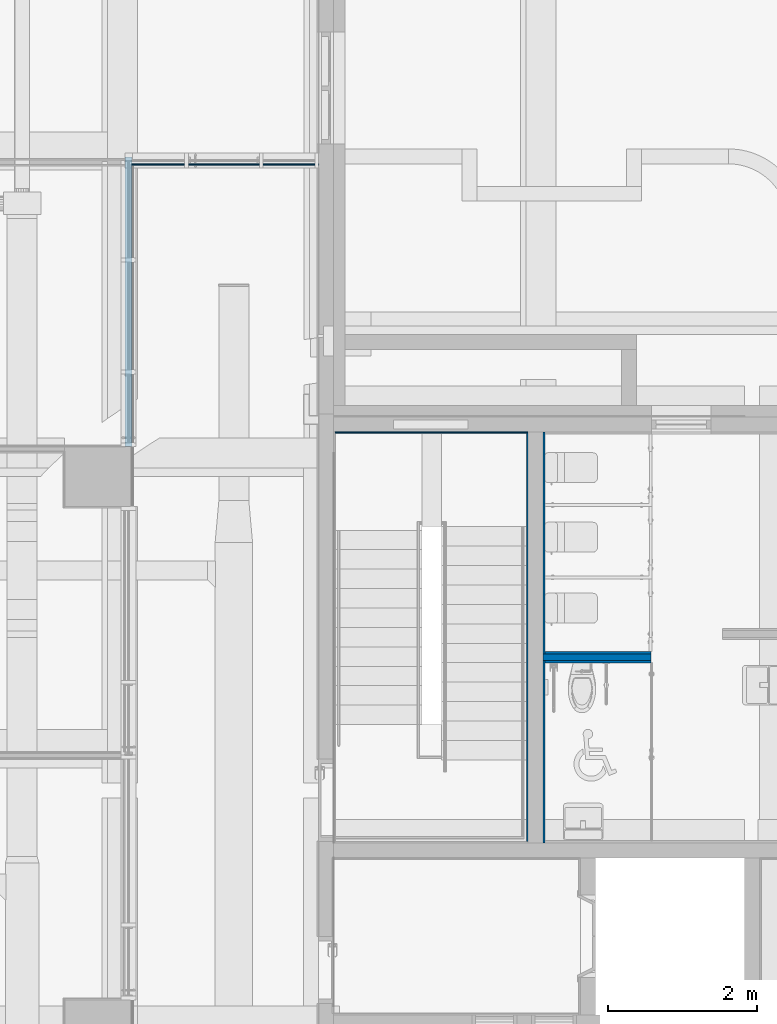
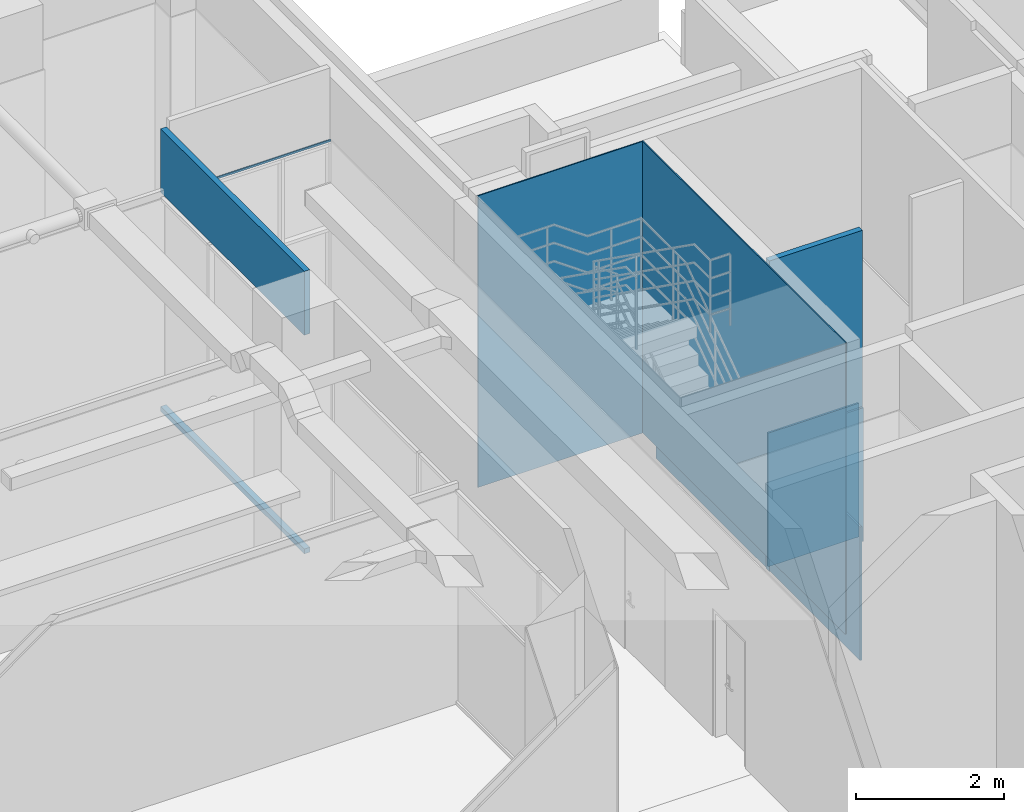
# One storey, part 47 of 100: 8 walls, 2 openings.
"""IFC2X3 building model written with IfcOpenShell, lengths in millimetres."""

from ifc_helpers import new_model, entity, si_unit, converted_unit, derived_unit, direction, frame, frame_2d, origin, place, context, subcontext, project, spatial, polyline, rectangle, extrude, clip, bounded_halfspace, material, layer, layer_set, layer_usage, type_object, element, save


model = new_model("IFC2X3")

# Units and contexts
model_context = context("Model", 3, precision=0.01, world=origin(), true_north=direction((6.123031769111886e-17, 1.0)))
body_context = subcontext(model_context, "Body", "Model", "MODEL_VIEW")
ifc_project = project(units=[si_unit("LENGTHUNIT", "METRE", prefix="MILLI"), si_unit("AREAUNIT", "SQUARE_METRE"), si_unit("VOLUMEUNIT", "CUBIC_METRE"), converted_unit("PLANEANGLEUNIT", "DEGREE", entity("IfcRatioMeasure", 0.017453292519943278), si_unit("PLANEANGLEUNIT", "RADIAN"), dimensions=[0, 0, 0, 0, 0, 0, 0]), si_unit("MASSUNIT", "GRAM", prefix="KILO"), derived_unit("MASSDENSITYUNIT", [(si_unit("MASSUNIT", "GRAM", prefix="KILO"), 1), (si_unit("LENGTHUNIT", "METRE"), -3)]), derived_unit("MOMENTOFINERTIAUNIT", [(si_unit("LENGTHUNIT", "METRE"), 4)]), si_unit("TIMEUNIT", "SECOND"), si_unit("FREQUENCYUNIT", "HERTZ"), si_unit("THERMODYNAMICTEMPERATUREUNIT", "DEGREE_CELSIUS"), derived_unit("THERMALTRANSMITTANCEUNIT", [(si_unit("MASSUNIT", "GRAM", prefix="KILO"), 1), (si_unit("THERMODYNAMICTEMPERATUREUNIT", "KELVIN"), -1), (si_unit("TIMEUNIT", "SECOND"), -3)]), derived_unit("VOLUMETRICFLOWRATEUNIT", [(si_unit("LENGTHUNIT", "METRE"), 3), (si_unit("TIMEUNIT", "SECOND"), -1)]), derived_unit("MASSFLOWRATEUNIT", [(si_unit("MASSUNIT", "GRAM", prefix="KILO"), 1), (si_unit("TIMEUNIT", "SECOND"), -1)]), derived_unit("ROTATIONALFREQUENCYUNIT", [(si_unit("TIMEUNIT", "SECOND"), -1)]), si_unit("ELECTRICCURRENTUNIT", "AMPERE"), si_unit("ELECTRICVOLTAGEUNIT", "VOLT"), si_unit("POWERUNIT", "WATT"), si_unit("FORCEUNIT", "NEWTON", prefix="KILO"), si_unit("ILLUMINANCEUNIT", "LUX"), si_unit("LUMINOUSFLUXUNIT", "LUMEN"), si_unit("LUMINOUSINTENSITYUNIT", "CANDELA"), derived_unit("USERDEFINED", [(si_unit("MASSUNIT", "GRAM", prefix="KILO"), -1), (si_unit("LENGTHUNIT", "METRE"), -2), (si_unit("TIMEUNIT", "SECOND"), 3), (si_unit("LUMINOUSFLUXUNIT", "LUMEN"), 1)]), derived_unit("SOUNDPOWERUNIT", [(si_unit("MASSUNIT", "GRAM", prefix="KILO"), 1), (si_unit("LENGTHUNIT", "METRE"), 2), (si_unit("TIMEUNIT", "SECOND"), -3)]), derived_unit("SOUNDPRESSUREUNIT", [(si_unit("MASSUNIT", "GRAM", prefix="KILO"), 1), (si_unit("LENGTHUNIT", "METRE"), -1), (si_unit("TIMEUNIT", "SECOND"), -2)]), derived_unit("LINEARVELOCITYUNIT", [(si_unit("LENGTHUNIT", "METRE"), 1), (si_unit("TIMEUNIT", "SECOND"), -1)]), si_unit("PRESSUREUNIT", "PASCAL"), derived_unit("USERDEFINED", [(si_unit("LENGTHUNIT", "METRE"), -2), (si_unit("MASSUNIT", "GRAM", prefix="KILO"), 1), (si_unit("TIMEUNIT", "SECOND"), -2)]), derived_unit("LINEARFORCEUNIT", [(si_unit("MASSUNIT", "GRAM", prefix="KILO"), 1), (si_unit("LENGTHUNIT", "METRE"), 1), (si_unit("TIMEUNIT", "SECOND"), -2), (si_unit("LENGTHUNIT", "METRE"), -1)]), derived_unit("PLANARFORCEUNIT", [(si_unit("MASSUNIT", "GRAM", prefix="KILO"), 1), (si_unit("LENGTHUNIT", "METRE"), 1), (si_unit("TIMEUNIT", "SECOND"), -2), (si_unit("LENGTHUNIT", "METRE"), -2)])], contexts=[model_context])

# Site, building, storey
site_placement = place(None, frame((-14167.972527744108, -657.2125860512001, 0.0)))
site = spatial("IfcSite", under=ifc_project, at=site_placement, Name="Default", CompositionType="ELEMENT")
building_placement = place(site_placement, origin())
building = spatial("IfcBuilding", under=site, at=building_placement, Name="Sample Building", CompositionType="ELEMENT")
storey_placement = place(building_placement, origin())
storey = spatial("IfcBuildingStorey", under=building, at=storey_placement, Name="지상 1층", CompositionType="ELEMENT", Elevation=0.0)

# Wall
ifc_material_1 = material(Name="KBIMS-시멘트 벽돌")
ifc_layer_1 = layer(ifc_material_1, 90.0)
ifc_layer_set_1 = layer_set([ifc_layer_1], Name="기본 벽:WA211-시멘트벽돌(일반) 벽 (0.5B) 90mm")
ifc_layer_usage_1 = layer_usage(ifc_layer_set_1, "AXIS2", "NEGATIVE", 45.0)
wall_type_1 = type_object("IfcWallType", Name="기본 벽:WA211-시멘트벽돌(일반) 벽 (0.5B) 90mm", PredefinedType="STANDARD", material=ifc_layer_set_1)
wall_1_placement = place(storey_placement, frame((33067.972491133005, 24941.74389776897, -510.0)))
element("IfcWallStandardCase", 1, at=wall_1_placement, inside=storey, type_object=wall_type_1, material=ifc_layer_usage_1, Name="기본 벽:WA211-시멘트벽돌(일반) 벽 (0.5B) 90mm", ObjectType="기본 벽:WA211-시멘트벽돌(일반) 벽 (0.5B) 90mm", context=body_context, shape_type="Clipping", body=[
    clip(extrude(rectangle(XDim=1444.991263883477, YDim=90.0000000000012, at=frame_2d((722.4956319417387, -2.3234747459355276e-12), x_axis=(1.0, 0.0))), origin(), (0.0, 0.0, 1.0), 5110.000000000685), bounded_halfspace(frame((1444.9912638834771, -45.0, 0.0), z_axis=(0.0, 0.0, 1.0), x_axis=(0.0, 1.0, 0.0)), True, frame((1444.9912638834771, -45.0, 0.0), z_axis=(0.0, 0.0, 1.0), x_axis=(0.0, 1.0, 0.0)), polyline([(0.0, 0.0), (27432.0, 1.6542459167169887e-08), (27432.0, 440433.3372317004), (-2.6414594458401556e-07, 440433.33723168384), (0.0, 0.0)]))),
])

# Wall, opening
ifc_layer_usage_2 = layer_usage(ifc_layer_set_1, "AXIS2", "NEGATIVE", 45.0)
wall_2_placement = place(storey_placement, frame((27522.955141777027, 27757.195169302, 0.0), z_axis=(0.0, 0.0, 1.0), x_axis=(0.0, 1.0, 0.0)))
wall_2 = element("IfcWallStandardCase", 2, at=wall_2_placement, inside=storey, type_object=wall_type_1, material=ifc_layer_usage_2, Name="기본 벽:WA211-시멘트벽돌(일반) 벽 (0.5B) 90mm", ObjectType="기본 벽:WA211-시멘트벽돌(일반) 벽 (0.5B) 90mm", context=body_context, shape_type="SweptSolid", body=[
    extrude(rectangle(XDim=3874.982578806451, YDim=90.0000000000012, at=frame_2d((1937.4912894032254, -9.308109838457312e-13), x_axis=(-1.0, 0.0))), origin(), (0.0, 0.0, 1.0), 4650.000000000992),
])
opening_1_placement = place(wall_2_placement, origin())
element("IfcOpeningElement", 3, at=opening_1_placement, cuts=wall_2, Name="기본 벽:WA211-시멘트벽돌(일반) 벽 (0.5B) 90mm", ObjectType="Opening", context=body_context, shape_type="SweptSolid", body=[
    extrude(rectangle(XDim=3520.000000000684, YDim=3929.982578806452, at=frame_2d((-1.1368683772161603e-13, -2.1600499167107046e-12), x_axis=(1.0, 0.0))), frame((1964.991289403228, -197.40000000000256, 1840.0), z_axis=(0.0, 1.0, 0.0), x_axis=(0.0, 0.0, 1.0)), (0.0, 0.0, 1.0), 394.8000000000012),
])

ifc_material_2 = material(Name="WA611-수성페인트 (내부) 벽 (3회)")
ifc_layer_2 = layer(ifc_material_2, 1.0)
ifc_material_3 = material(Name="WA551-시멘트모르타르 (내부) 벽 18mm")
ifc_layer_3 = layer(ifc_material_3, 16.0)
ifc_material_4 = material(Name="WA555-콘크리트면정리 벽 (내부)")
ifc_layer_4 = layer(ifc_material_4, 1.0)
ifc_layer_set_2 = layer_set([ifc_layer_2, ifc_layer_3, ifc_layer_4], Name="기본 벽:A1-32-06A-콘크리트면정리, 시멘트모르타르(미장용), 수성페인트(내부) (18mm)")
ifc_layer_usage_3 = layer_usage(ifc_layer_set_2, "AXIS2", "NEGATIVE", 9.000000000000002)
wall_type_2 = type_object("IfcWallType", Name="기본 벽:A1-32-06A-콘크리트면정리, 시멘트모르타르(미장용), 수성페인트(내부) (18mm)", PredefinedType="STANDARD", material=ifc_layer_set_2)
wall_3_placement = place(storey_placement, frame((30066.125814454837, 31533.160331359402, 3600.0), z_axis=(0.0, 0.0, 1.0), x_axis=(-1.0, 0.0, 0.0)))
wall_3 = element("IfcWallStandardCase", 4, at=wall_3_placement, inside=storey, type_object=wall_type_2, material=ifc_layer_usage_3, Name="기본 벽:A1-32-06A-콘크리트면정리, 시멘트모르타르(미장용), 수성페인트(내부) (18mm)", ObjectType="기본 벽:A1-32-06A-콘크리트면정리, 시멘트모르타르(미장용), 수성페인트(내부) (18mm)", context=body_context, shape_type="SweptSolid", body=[
    extrude(rectangle(XDim=2498.1706726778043, YDim=18.00000000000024, at=frame_2d((1249.0853363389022, -2.1742607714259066e-12), x_axis=(1.0, 0.0))), origin(), (0.0, 0.0, 1.0), 30.000000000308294),
])
opening_2_placement = place(wall_3_placement, origin())
element("IfcOpeningElement", 5, at=opening_2_placement, cuts=wall_3, Name="기본 벽:A1-32-06A-콘크리트면정리, 시멘트모르타르(미장용), 수성페인트(내부) (18mm)", ObjectType="Opening", context=body_context, shape_type="SweptSolid", body=[
    extrude(rectangle(XDim=3520.000000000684, YDim=2593.153323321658, at=frame_2d((0.0, 0.0), x_axis=(0.0, 1.0))), frame((1296.5766616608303, -161.40000000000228, -1760.0), z_axis=(0.0, 1.0, 0.0), x_axis=(-1.0, 0.0, 0.0)), (0.0, 0.0, 1.0), 322.80000000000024),
])

# Walls
ifc_layer_usage_4 = layer_usage(ifc_layer_set_2, "AXIS2", "POSITIVE", -9.000000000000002)
wall_4_placement = place(storey_placement, frame((32858.97249113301, 27957.194891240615, 0.0), z_axis=(0.0, 0.0, 1.0), x_axis=(0.0, -1.0, 0.0)))
element("IfcWallStandardCase", 6, at=wall_4_placement, inside=storey, type_object=wall_type_2, material=ifc_layer_usage_4, Name="기본 벽:A1-32-06A-콘크리트면정리, 시멘트모르타르(미장용), 수성페인트(내부) (18mm)", ObjectType="기본 벽:A1-32-06A-콘크리트면정리, 시멘트모르타르(미장용), 수성페인트(내부) (18mm)", context=body_context, shape_type="SweptSolid", body=[
    extrude(rectangle(XDim=5481.999996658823, YDim=18.00000000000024, at=frame_2d((2740.9999983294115, -2.1662671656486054e-12), x_axis=(-1.0, 0.0))), origin(), (0.0, 0.0, 1.0), 4800.000000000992),
])
ifc_layer_usage_5 = layer_usage(ifc_layer_set_2, "AXIS2", "POSITIVE", -9.000000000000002)
wall_5_placement = place(storey_placement, frame((30285.963761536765, 27948.19489124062, 0.0)))
element("IfcWallStandardCase", 7, at=wall_5_placement, inside=storey, type_object=wall_type_2, material=ifc_layer_usage_5, Name="기본 벽:A1-32-06A-콘크리트면정리, 시멘트모르타르(미장용), 수성페인트(내부) (18mm)", ObjectType="기본 벽:A1-32-06A-콘크리트면정리, 시멘트모르타르(미장용), 수성페인트(내부) (18mm)", context=body_context, shape_type="SweptSolid", body=[
    extrude(rectangle(XDim=2564.008729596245, YDim=18.00000000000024, at=frame_2d((1282.0043647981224, -2.1662671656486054e-12), x_axis=(-1.0, 0.0))), origin(), (0.0, 0.0, 1.0), 4800.000000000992),
])
ifc_material_5 = material(Name="WA352-도기질타일 벽 200x200")
ifc_layer_5 = layer(ifc_material_5, 8.0)
ifc_material_6 = material(Name="WA551-시멘트모르타르 (내부) 벽 22mm")
ifc_layer_6 = layer(ifc_material_6, 22.0)
ifc_layer_set_3 = layer_set([ifc_layer_5, ifc_layer_6], Name="기본 벽:A1-33-01B-시멘트 모르타르, 도기질타일 (30mm)")
ifc_layer_usage_6 = layer_usage(ifc_layer_set_3, "AXIS2", "NEGATIVE", 15.0)
wall_type_3 = type_object("IfcWallType", Name="기본 벽:A1-33-01B-시멘트 모르타르, 도기질타일 (30mm)", PredefinedType="STANDARD", material=ifc_layer_set_3)
wall_6_placement = place(storey_placement, frame((33082.98122724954, 22457.212311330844, -500.0), z_axis=(0.0, 0.0, 1.0), x_axis=(0.0, 1.0, 0.0)))
element("IfcWallStandardCase", 8, at=wall_6_placement, inside=storey, type_object=wall_type_3, material=ifc_layer_usage_6, Name="기본 벽:A1-33-01B-시멘트 모르타르, 도기질타일 (30mm)", ObjectType="기본 벽:A1-33-01B-시멘트 모르타르, 도기질타일 (30mm)", context=body_context, shape_type="SweptSolid", body=[
    extrude(rectangle(XDim=5499.999996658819, YDim=30.000000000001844, at=frame_2d((2749.9999983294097, -2.495781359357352e-13), x_axis=(-1.0, 0.0))), origin(), (0.0, 0.0, 1.0), 2200.0),
])
ifc_layer_usage_7 = layer_usage(ifc_layer_set_3, "AXIS2", "NEGATIVE", 15.0)
wall_7_placement = place(storey_placement, frame((33097.98122724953, 24881.743897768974, -500.0)))
element("IfcWallStandardCase", 9, at=wall_7_placement, inside=storey, type_object=wall_type_3, material=ifc_layer_usage_7, Name="기본 벽:A1-33-01B-시멘트 모르타르, 도기질타일 (30mm)", ObjectType="기본 벽:A1-33-01B-시멘트 모르타르, 도기질타일 (30mm)", context=body_context, shape_type="SweptSolid", body=[
    extrude(rectangle(XDim=1414.9825277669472, YDim=30.000000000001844, at=frame_2d((707.4912638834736, -8.970602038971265e-14), x_axis=(-1.0, 0.0))), origin(), (0.0, 0.0, 1.0), 2200.0),
])
ifc_layer_usage_8 = layer_usage(ifc_layer_set_3, "AXIS2", "POSITIVE", -15.0)
wall_8_placement = place(storey_placement, frame((33097.98122724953, 25001.74389776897, -500.0)))
element("IfcWallStandardCase", 10, at=wall_8_placement, inside=storey, type_object=wall_type_3, material=ifc_layer_usage_8, Name="기본 벽:A1-33-01B-시멘트 모르타르, 도기질타일 (30mm)", ObjectType="기본 벽:A1-33-01B-시멘트 모르타르, 도기질타일 (30mm)", context=body_context, shape_type="SweptSolid", body=[
    extrude(rectangle(XDim=1414.9825277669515, YDim=30.000000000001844, at=frame_2d((707.4912638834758, 0.0), x_axis=(-1.0, 0.0))), origin(), (0.0, 0.0, 1.0), 2200.0),
])

save(model, "model.ifc")
